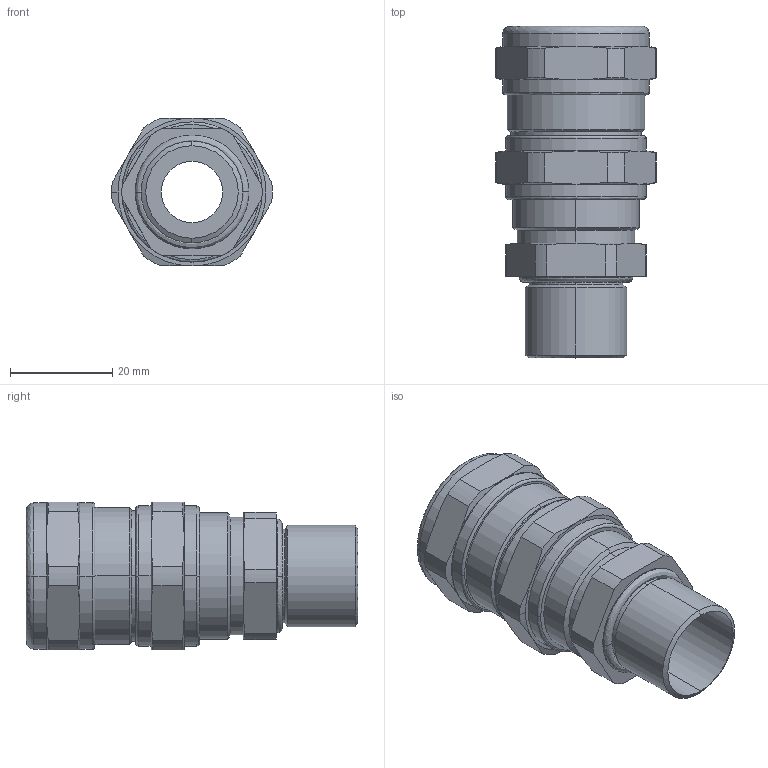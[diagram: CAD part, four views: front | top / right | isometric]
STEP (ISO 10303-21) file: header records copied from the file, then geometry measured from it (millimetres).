
FILE_DESCRIPTION (( 'STEP AP203' ), '1' );
FILE_NAME ('kbau1mbncwcle.STEP', '2016-03-14T18:35:22', ( '' ), ( '' ), 'SwSTEP 2.0', 'SolidWorks 2014', '' );
FILE_SCHEMA (( 'CONFIG_CONTROL_DESIGN' ));
Length unit declared in the file: millimetre
Products named in the file (1): kbau1mbncwcle
Bounding box: 31.5 x 65.05 x 29 mm (x, y, z)
Volume: 22188.7 mm3; surface area: 10155.2 mm2
Topology: 2 solids, 2 shells, 134 faces, 309 edges, 188 vertices
Faces by surface type: cylinder 48, cone 41, plane 31, bspline 14
Entity records: 4490 total; most frequent: CARTESIAN_POINT 1436, DIRECTION 641, ORIENTED_EDGE 618, EDGE_CURVE 309, AXIS2_PLACEMENT_3D 279, VERTEX_POINT 188, CIRCLE 158, EDGE_LOOP 147
